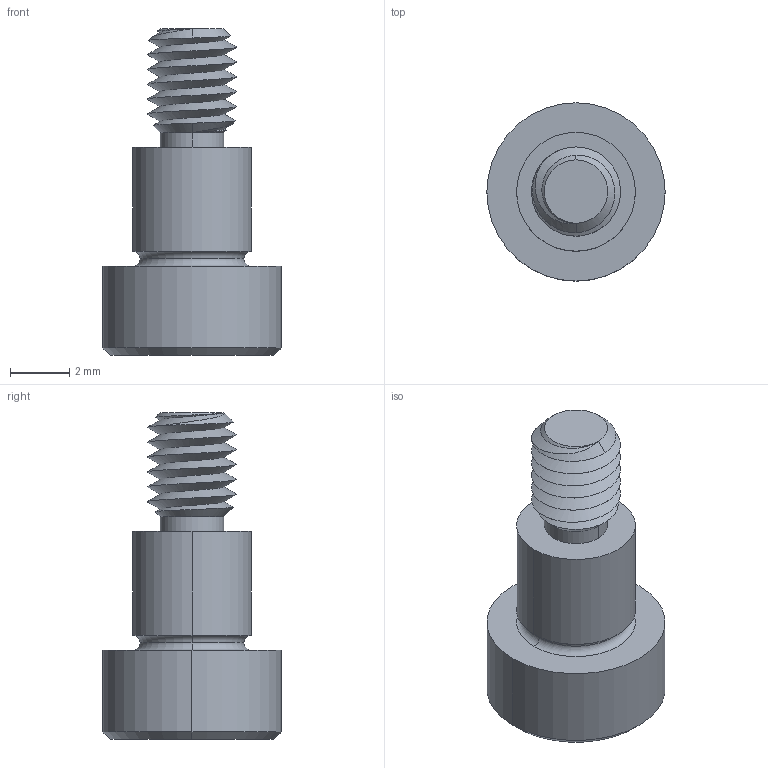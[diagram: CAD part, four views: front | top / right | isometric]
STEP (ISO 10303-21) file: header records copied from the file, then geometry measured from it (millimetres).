
FILE_DESCRIPTION (( 'STEP AP203' ), '1' );
FILE_NAME ('P0130.040-004-B2.step', '2021-11-09T21:00:39', ( '' ), ( '' ), 'SwSTEP 2.0', 'SolidWorks 2019', '' );
FILE_SCHEMA (( 'CONFIG_CONTROL_DESIGN' ));
Length unit declared in the file: millimetre
Products named in the file (1): P0130.040-004-B2
Bounding box: 6 x 6 x 11 mm (x, y, z)
Volume: 145.4 mm3; surface area: 234.6 mm2
Topology: 1 solids, 1 shells, 54 faces, 124 edges, 73 vertices
Faces by surface type: cylinder 18, plane 16, cone 14, torus 4, bspline 2
Entity records: 2218 total; most frequent: CARTESIAN_POINT 1016, ORIENTED_EDGE 244, DIRECTION 229, EDGE_CURVE 122, AXIS2_PLACEMENT_3D 93, VERTEX_POINT 73, EDGE_LOOP 57, FACE_OUTER_BOUND 54
